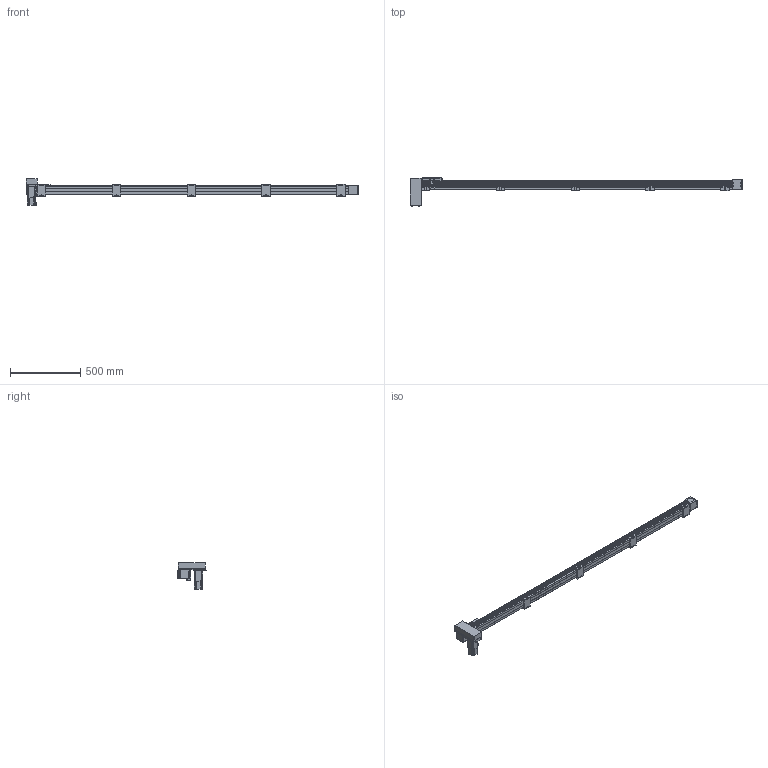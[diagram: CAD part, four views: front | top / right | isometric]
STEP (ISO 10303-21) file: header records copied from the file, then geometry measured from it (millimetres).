
FILE_DESCRIPTION(/* description */ ('STEP AP214'),/* implementation_level */ '2;1');
FILE_NAME(/* name */ 'SK60-P13-S2050-RD-T40-C1-N(0)',/* time_stamp */ '2023-04-06T04:56:37+02:00',/* author */ ('License CC BY-ND 4.0'),/* organization */ ('CADENAS'),/* preprocessor_version */ 'ST-DEVELOPER v19.3',/* originating_system */ 'PARTsolutions',/* authorisation */ ' ');
FILE_SCHEMA (('AUTOMOTIVE_DESIGN {1 0 10303 214 3 1 1}'));
Length unit declared in the file: millimetre
Products named in the file (10): SK60-P13-S2050-RD-T40-C1-N(0); PSC140-sensor; SK60-S450_seat; SK60-S450-BL-C1_slider; SK60_body3; SK60_body6; SK60-BL_body2; T40-p1; SK60-RD_fb; SK60-S2050-RD-C1_body
Assembly tree (19 placements, depth 2):
  SK60-P13-S2050-RD-T40-C1-N(0)
    PSC140-sensor  x3
    SK60-S450_seat  x5
    SK60-S450-BL-C1_slider
    SK60_body3  x3
    SK60_body6  x2
    SK60-BL_body2  x2
    T40-p1
    SK60-RD_fb
    SK60-S2050-RD-C1_body
Bounding box: 2355.5 x 199 x 189.7 mm (x, y, z)
Volume: 9229431 mm3; surface area: 1108099.1 mm2
Topology: 19 solids, 19 shells, 942 faces, 2342 edges, 1541 vertices
Faces by surface type: plane 596, cylinder 310, cone 34, torus 2
Full cylindrical faces by diameter (mm): 2.8 x3, 3.3 x4, 4 x2, 4.5 x30, 4.6 x3, 4.917 x28, 5 x6, 5.478 x4, 5.5 x31, 6.5 x10, 7 x2, 8 x4, 8.5 x4, 9.988 x4, 10 x20, 14 x1, 47 x3, 50 x2
Entity records: 18679 total; most frequent: DIRECTION 3190, CARTESIAN_POINT 3153, ORIENTED_EDGE 2940, EDGE_CURVE 1470, AXIS2_PLACEMENT_3D 1071, LINE 1048, VECTOR 1048, VERTEX_POINT 1034
